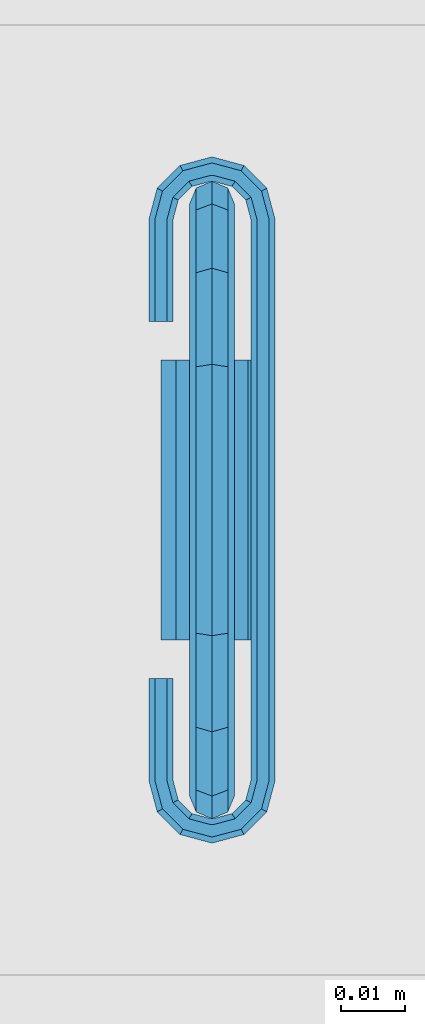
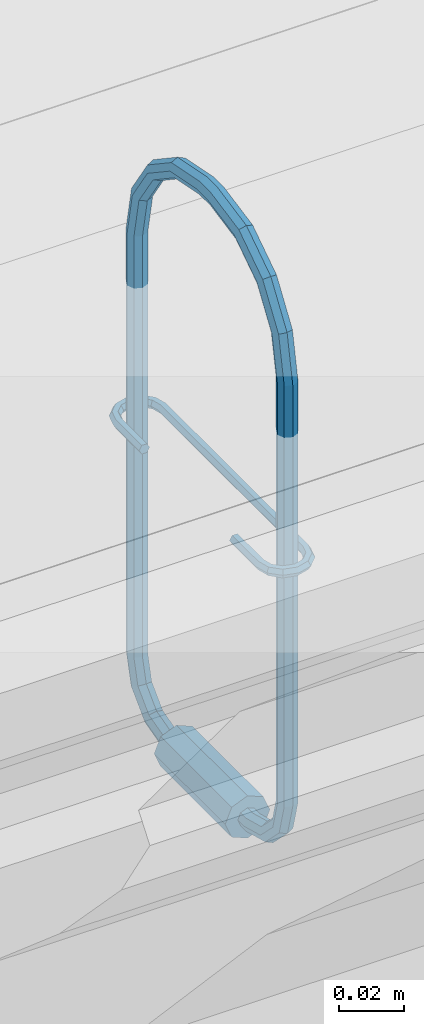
# One storey, part 159 of 230: 1 beam.
"""IFC4X3_ADD2 building model written with IfcOpenShell, lengths in millimetres."""

import ifcopenshell
import ifcopenshell.guid

model = None  # the IFC model being written
_history = None  # IfcOwnerHistory: only IFC2X3 demands one
_inside = {}  # id of a spatial element -> (the spatial element, [elements in it])
_under = {}  # id of a project, library or spatial element -> (it, [spatial elements below it])
_declared = {}  # id of a project -> (the project, [libraries it declares])
_typed = {}  # id of a type object -> (the type object, [elements of that type])
_made_of = {}  # id of a material, layer set ... -> (it, [elements and type objects made of it])


def new_model(schema):
    """Start an empty IFC model of exactly this schema.

    Asked for "IFC4X3", IfcOpenShell would pick the latest addendum, in which some entities
    have other attributes; the version numbers below select the first issue.
    IFC2X3 requires an IfcOwnerHistory on every rooted entity: one is made here for all.
    """
    global model, _history
    if schema == "IFC4X3":
        model = ifcopenshell.file(schema_version=(4, 3, 0, 0))
    else:
        model = ifcopenshell.file(schema=schema)
    _inside.clear()
    _under.clear()
    _declared.clear()
    _typed.clear()
    _made_of.clear()
    _history = None
    if model.schema == "IFC2X3":
        org = make("IfcOrganization", Name="unknown")
        user = make(
            "IfcPersonAndOrganization",
            ThePerson=make("IfcPerson", FamilyName="unknown"),
            TheOrganization=org,
        )
        app = make(
            "IfcApplication",
            ApplicationDeveloper=org,
            Version="unknown",
            ApplicationFullName="unknown",
            ApplicationIdentifier="unknown",
        )
        _history = make(
            "IfcOwnerHistory",
            OwningUser=user,
            OwningApplication=app,
            ChangeAction="ADDED",
            CreationDate=0,
        )
    return model


def make(cls, **values):
    """One entity of the class cls with the attributes given. An attribute that is None is left unset."""
    return model.create_entity(
        cls, **{name: value for name, value in values.items() if value is not None}
    )


def rooted(cls, **values):
    """An entity with a GlobalId (a new one), such as an element, a storey or a relation."""
    return make(cls, GlobalId=ifcopenshell.guid.new(), OwnerHistory=_history, **values)


def si_unit(unit_type, name, prefix=None):
    """IfcSIUnit, for example si_unit("LENGTHUNIT", "METRE", prefix="MILLI")."""
    return make("IfcSIUnit", UnitType=unit_type, Prefix=prefix, Name=name)


def assignment(units):
    """IfcUnitAssignment: the units of a project."""
    return None if units is None else make("IfcUnitAssignment", Units=units)


def point(xyz):
    """IfcCartesianPoint."""
    return None if xyz is None else make("IfcCartesianPoint", Coordinates=xyz)


def direction(xyz):
    """IfcDirection."""
    return None if xyz is None else make("IfcDirection", DirectionRatios=xyz)


def frame(location, z_axis=None, x_axis=None):
    """IfcAxis2Placement3D, a coordinate frame: its origin and axes. An axis left out is left unset."""
    return make(
        "IfcAxis2Placement3D",
        Location=point(location),
        Axis=direction(z_axis),
        RefDirection=direction(x_axis),
    )


def origin_with_axes():
    """The frame at (0, 0, 0) with the z axis (0, 0, 1) and the x axis (1, 0, 0) written out."""
    return frame((0.0, 0.0, 0.0), z_axis=(0.0, 0.0, 1.0), x_axis=(1.0, 0.0, 0.0))


def place(relative_to, where):
    """IfcLocalPlacement: puts the frame where relative to a parent placement (None: the world)."""
    return make(
        "IfcLocalPlacement", PlacementRelTo=relative_to, RelativePlacement=where
    )


def context(
    kind, dimensions, precision=None, world=None, true_north=None, identifier=None
):
    """IfcGeometricRepresentationContext, for example the 3D "Model" context."""
    return make(
        "IfcGeometricRepresentationContext",
        ContextIdentifier=identifier,
        ContextType=kind,
        CoordinateSpaceDimension=dimensions,
        Precision=precision,
        WorldCoordinateSystem=world,
        TrueNorth=true_north,
    )


def subcontext(parent, identifier, kind, view, scale=None):
    """IfcGeometricRepresentationSubContext, for example "Body" below "Model"."""
    return make(
        "IfcGeometricRepresentationSubContext",
        ContextIdentifier=identifier,
        ContextType=kind,
        ParentContext=parent,
        TargetScale=scale,
        TargetView=view,
    )


def project(units=None, contexts=None):
    """IfcProject with its units and contexts."""
    return rooted(
        "IfcProject",
        Name="project",
        RepresentationContexts=contexts,
        UnitsInContext=assignment(units),
    )


def spatial(cls, under=None, at=None, **own):
    """A site, building, storey or space (cls), placed at a placement, below another one or the project."""
    s = rooted(cls, ObjectPlacement=at, **own)
    if under is not None:
        _under.setdefault(under.id(), (under, []))[1].append(s)
    return s


def point_list(points):
    """IfcCartesianPointList2D or 3D."""
    cls = (
        "IfcCartesianPointList2D" if len(points[0]) == 2 else "IfcCartesianPointList3D"
    )
    return make(cls, CoordList=points)


def triangles(points, corners, closed=None, point_numbers=None):
    """IfcTriangulatedFaceSet: each triangle names its three corners, points numbered from 1."""
    return make(
        "IfcTriangulatedFaceSet",
        Coordinates=point_list(points),
        Closed=closed,
        CoordIndex=corners,
        PnIndex=point_numbers,
    )


def shape(context_of_items, identifier, shape_type, items):
    """IfcShapeRepresentation: the items that make up one representation, for example the "Body"."""
    return make(
        "IfcShapeRepresentation",
        ContextOfItems=context_of_items,
        RepresentationIdentifier=identifier,
        RepresentationType=shape_type,
        Items=items,
    )


def made_of(thing, what):
    """Note that an element or type object is made of a material, layer set ...; save() writes the relation."""
    if what is not None:
        _made_of.setdefault(what.id(), (what, []))[1].append(thing)
    return thing


def element(
    cls,
    number,
    at=None,
    inside=None,
    cuts=None,
    type_object=None,
    material=None,
    context=None,
    identifier="Body",
    shape_type=None,
    held_by="IfcProductDefinitionShape",
    body=None,
    shapes=None,
    **own,
):
    """One element of the class cls, such as IfcWall. Its Tag is "e" and its number.

    at: its placement. inside: the storey or other place that contains it. cuts: it is an
    opening in that element (IfcRelVoidsElement). A single representation is given by context,
    identifier, shape_type and body (its items); several are given by shapes. held_by: the class
    of the entity that holds the representations. save() writes the other relations.
    """
    e = rooted(cls, Tag="e%d" % number, ObjectPlacement=at, **own)
    if body is not None:
        shapes = [shape(context, identifier, shape_type, body)]
    if shapes is not None:
        e.Representation = make(held_by, Representations=shapes)
    if inside is not None:
        _inside.setdefault(inside.id(), (inside, []))[1].append(e)
    if cuts is not None:
        rooted(
            "IfcRelVoidsElement", RelatingBuildingElement=cuts, RelatedOpeningElement=e
        )
    if type_object is not None:
        _typed.setdefault(type_object.id(), (type_object, []))[1].append(e)
    return made_of(e, material)


def aggregate(whole, parts):
    """IfcRelAggregates: a whole, such as a stair, and the parts it consists of."""
    return rooted("IfcRelAggregates", RelatingObject=whole, RelatedObjects=parts)


def save(model, path):
    """Write the relations noted so far, then the file.

    IfcRelAggregates (storeys below a building ...), IfcRelContainedInSpatialStructure (elements
    in a storey), IfcRelDefinesByType, IfcRelAssociatesMaterial and IfcRelDeclares: one each for
    every whole, place, type object, material and project.
    """
    for whole, parts in _under.values():
        aggregate(whole, parts)
    for where, things in _inside.values():
        rooted(
            "IfcRelContainedInSpatialStructure",
            RelatedElements=things,
            RelatingStructure=where,
        )
    for kind, things in _typed.values():
        rooted("IfcRelDefinesByType", RelatedObjects=things, RelatingType=kind)
    for what, things in _made_of.values():
        rooted("IfcRelAssociatesMaterial", RelatedObjects=things, RelatingMaterial=what)
    for by, libraries in _declared.values():
        rooted("IfcRelDeclares", RelatingContext=by, RelatedDefinitions=libraries)
    model.write(path)


model = new_model("IFC4X3_ADD2")

# Units and contexts
model_context = context("Model", 3, precision=1e-05, world=origin_with_axes(), true_north=direction((0.0, 1.0)))
body_context = subcontext(model_context, "Body", "Model", "MODEL_VIEW")
ifc_project = project(units=[si_unit("LENGTHUNIT", "METRE", prefix="MILLI"), si_unit("AREAUNIT", "SQUARE_METRE"), si_unit("VOLUMEUNIT", "CUBIC_METRE"), si_unit("PLANEANGLEUNIT", "RADIAN"), si_unit("TIMEUNIT", "SECOND"), si_unit("MASSUNIT", "GRAM")], contexts=[model_context])

# Site, building, storey
site_placement = place(None, origin_with_axes())
site = spatial("IfcSite", under=ifc_project, at=site_placement, Name="Site", CompositionType="ELEMENT")
building_placement = place(site_placement, origin_with_axes())
building = spatial("IfcBuilding", under=site, at=building_placement, Name="IFC Building Story")
storey_placement = place(building_placement, origin_with_axes())
storey = spatial("IfcBuildingStorey", under=building, at=storey_placement, Name="ETAGE 00 (0)", Elevation=0.0)

# Beam
beam_placement = place(storey_placement, origin_with_axes())
element("IfcBeam", 1, at=beam_placement, inside=storey, Name="LU2", ObjectType="D7", context=body_context, shape_type="Tessellation", body=[
    triangles([(40583.66235351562, -12884.49959106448, 4036.025157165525), (40583.66235351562, -12888.00054016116, 4036.025157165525), (40581.1880859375, -12884.49959106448, 4034.999929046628), (40581.1880859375, -12888.00054016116, 4034.999929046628), (40584.69019775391, -12884.49959106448, 4038.500006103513), (40584.69019775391, -12888.00054016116, 4038.500006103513), (40583.66235351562, -12888.00054016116, 4040.974855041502), (40583.66235351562, -12884.49959106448, 4040.974855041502), (40581.1880859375, -12888.00054016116, 4042.000083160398), (40581.1880859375, -12884.49959106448, 4042.000083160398), (40578.71381835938, -12888.00054016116, 4040.974855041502), (40578.71381835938, -12884.49959106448, 4040.974855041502), (40577.690625, -12888.00054016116, 4038.500006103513), (40577.690625, -12884.49959106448, 4038.500006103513), (40578.71381835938, -12884.49959106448, 4036.025157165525), (40578.71381835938, -12888.00054016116, 4036.025157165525), (40581.1880859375, -12872.25033874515, 4038.282286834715), (40578.71381835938, -12872.76309814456, 4039.170023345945), (40581.1880859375, -12863.28228149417, 4047.250053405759), (40578.71381835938, -12864.17059936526, 4047.762522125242), (40583.66235351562, -12864.17059936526, 4047.762522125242), (40583.66235351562, -12872.76309814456, 4039.170023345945), (40584.69019775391, -12866.31349182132, 4048.999946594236), (40584.69019775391, -12874.00023193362, 4041.313497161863), (40583.66235351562, -12875.23736572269, 4043.456680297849), (40583.66235351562, -12868.45638427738, 4050.237371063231), (40581.1880859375, -12875.7501251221, 4044.34441680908), (40581.1880859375, -12869.34470214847, 4050.750130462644), (40578.71381835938, -12868.45638427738, 4050.237371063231), (40578.71381835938, -12875.23736572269, 4043.456680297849), (40577.690625, -12866.31349182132, 4048.999946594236), (40577.690625, -12874.00023193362, 4041.313497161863), (40578.71381835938, -12861.02544250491, 4059.499887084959), (40577.690625, -12863.49971008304, 4059.499887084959), (40581.1880859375, -12859.99992370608, 4059.499887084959), (40583.66235351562, -12861.02544250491, 4059.499887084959), (40584.69019775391, -12863.49971008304, 4059.499887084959), (40583.66235351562, -12865.97514038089, 4059.499887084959), (40581.1880859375, -12866.99949645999, 4059.499887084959), (40578.71381835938, -12865.97514038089, 4059.499887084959), (40578.71381835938, -12865.97514038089, 4218.50006561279), (40577.690625, -12863.49971008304, 4218.50006561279), (40578.71381835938, -12869.05983581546, 4234.008421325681), (40577.690625, -12866.77276611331, 4234.955456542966), (40578.71381835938, -12877.84418334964, 4247.155583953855), (40577.690625, -12876.09429016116, 4248.905477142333), (40578.71381835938, -12874.34439697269, 4250.65566101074), (40578.71381835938, -12864.48685913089, 4235.902491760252), (40581.1880859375, -12873.62002258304, 4251.38032608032), (40581.1880859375, -12863.53924255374, 4236.294909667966), (40583.66235351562, -12874.34439697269, 4250.65566101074), (40583.66235351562, -12864.48685913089, 4235.902491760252), (40584.69019775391, -12876.09429016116, 4248.905477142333), (40584.69019775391, -12866.77276611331, 4234.955456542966), (40583.66235351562, -12869.05983581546, 4234.008421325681), (40583.66235351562, -12877.84418334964, 4247.155583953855), (40581.1880859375, -12870.00628967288, 4233.616003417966), (40581.1880859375, -12878.56972045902, 4246.430628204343), (40581.1880859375, -12891.38405456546, 4254.993186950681), (40578.71381835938, -12890.99221801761, 4255.940222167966), (40577.690625, -12890.04460144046, 4258.226710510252), (40578.71381835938, -12889.09698486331, 4260.513198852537), (40581.1880859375, -12888.70514831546, 4261.460524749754), (40583.66235351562, -12889.09698486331, 4260.513198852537), (40584.69019775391, -12890.04460144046, 4258.226710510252), (40583.66235351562, -12890.99221801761, 4255.940222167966), (40583.66235351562, -12906.49941101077, 4259.025208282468), (40581.1880859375, -12906.49941101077, 4257.999980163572), (40578.71381835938, -12906.49941101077, 4259.025208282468), (40577.690625, -12906.49941101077, 4261.500057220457), (40578.71381835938, -12906.49941101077, 4263.974906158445), (40581.1880859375, -12906.49941101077, 4265.000134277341), (40583.66235351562, -12906.49941101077, 4263.974906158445), (40584.69019775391, -12906.49941101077, 4261.500057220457), (40584.69019775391, -12913.5001464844, 4261.500057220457), (40583.66235351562, -12913.5001464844, 4259.025208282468), (40584.69019775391, -12929.95495605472, 4258.226710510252), (40583.66235351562, -12929.0085021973, 4255.940222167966), (40584.69019775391, -12943.90526733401, 4248.905477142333), (40583.66235351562, -12942.15537414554, 4247.155583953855), (40581.1880859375, -12928.61550292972, 4254.993186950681), (40581.1880859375, -12941.43099975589, 4246.430628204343), (40578.71381835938, -12942.15537414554, 4247.155583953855), (40578.71381835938, -12929.0085021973, 4255.940222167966), (40577.690625, -12943.90526733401, 4248.905477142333), (40577.690625, -12929.95495605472, 4258.226710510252), (40578.71381835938, -12945.65516052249, 4250.65566101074), (40578.71381835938, -12930.90257263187, 4260.513198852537), (40581.1880859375, -12946.38069763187, 4251.38032608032), (40581.1880859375, -12931.29440917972, 4261.460524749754), (40583.66235351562, -12945.65516052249, 4250.65566101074), (40583.66235351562, -12930.90257263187, 4260.513198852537), (40584.69019775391, -12953.22679138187, 4234.955456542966), (40583.66235351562, -12955.51386108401, 4235.902491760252), (40583.66235351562, -12950.94088439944, 4234.008421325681), (40581.1880859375, -12949.9932678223, 4233.616003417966), (40578.71381835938, -12950.94088439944, 4234.008421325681), (40577.690625, -12953.22679138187, 4234.955456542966), (40578.71381835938, -12955.51386108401, 4235.902491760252), (40581.1880859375, -12956.46031494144, 4236.294909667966), (40583.66235351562, -12958.97527770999, 4218.50006561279), (40581.1880859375, -12959.99963378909, 4218.50006561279), (40584.69019775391, -12956.49984741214, 4218.50006561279), (40583.66235351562, -12954.02557983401, 4218.50006561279), (40581.1880859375, -12953.00006103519, 4218.50006561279), (40578.71381835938, -12954.02557983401, 4218.50006561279), (40577.690625, -12956.49984741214, 4218.50006561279), (40578.71381835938, -12958.97527770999, 4218.50006561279), (40581.1880859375, -12959.99963378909, 4059.499887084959), (40578.71381835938, -12958.97527770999, 4059.499887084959), (40581.1880859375, -12956.71727600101, 4047.250053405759), (40578.71381835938, -12955.83012084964, 4047.762522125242), (40581.1880859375, -12947.75038146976, 4038.282286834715), (40578.71381835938, -12947.23762207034, 4039.170023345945), (40583.66235351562, -12947.23762207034, 4039.170023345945), (40583.66235351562, -12955.83012084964, 4047.762522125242), (40584.69019775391, -12946.00048828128, 4041.313497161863), (40584.69019775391, -12953.68606567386, 4048.999946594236), (40583.66235351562, -12951.5431732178, 4050.237371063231), (40583.66235351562, -12944.76219177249, 4043.456680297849), (40581.1880859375, -12950.65485534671, 4050.750130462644), (40581.1880859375, -12944.24943237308, 4044.34441680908), (40578.71381835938, -12944.76219177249, 4043.456680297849), (40578.71381835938, -12951.5431732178, 4050.237371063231), (40577.690625, -12946.00048828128, 4041.313497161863), (40577.690625, -12953.68606567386, 4048.999946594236), (40578.71381835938, -12935.49996643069, 4036.025157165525), (40577.690625, -12935.49996643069, 4038.500006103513), (40581.1880859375, -12935.49996643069, 4034.999929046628), (40583.66235351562, -12935.49996643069, 4036.025157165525), (40584.69019775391, -12935.49996643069, 4038.500006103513), (40583.66235351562, -12935.49996643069, 4040.974855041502), (40581.1880859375, -12935.49996643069, 4042.000083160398), (40578.71381835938, -12935.49996643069, 4040.974855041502), (40578.71381835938, -12932.00018005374, 4040.974855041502), (40577.690625, -12932.00018005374, 4038.500006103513), (40581.1880859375, -12932.00018005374, 4042.000083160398), (40583.66235351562, -12932.00018005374, 4040.974855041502), (40584.69019775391, -12932.00018005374, 4038.500006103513), (40583.66235351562, -12932.00018005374, 4036.025157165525), (40581.1880859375, -12932.00018005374, 4034.999929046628), (40578.71381835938, -12932.00018005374, 4036.025157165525), (40589.18759765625, -12932.00018005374, 4038.500006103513), (40581.1880859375, -12932.00018005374, 4046.500099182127), (40575.5326171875, -12932.00018005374, 4044.156928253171), (40573.18857421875, -12932.00018005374, 4038.500006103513), (40586.8435546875, -12932.00018005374, 4044.156928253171), (40575.5326171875, -12932.00018005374, 4032.843083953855), (40581.1880859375, -12932.00018005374, 4030.4999130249), (40586.8435546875, -12932.00018005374, 4032.843083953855), (40586.8435546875, -12888.00054016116, 4032.843083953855), (40581.1880859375, -12888.00054016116, 4030.4999130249), (40589.18759765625, -12888.00054016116, 4038.500006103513), (40586.8435546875, -12888.00054016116, 4044.156928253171), (40581.1880859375, -12888.00054016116, 4046.500099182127), (40575.5326171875, -12888.00054016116, 4044.156928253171), (40573.18857421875, -12888.00054016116, 4038.500006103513), (40575.5326171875, -12888.00054016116, 4032.843083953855), (40577.690625, -12956.49984741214, 4059.499887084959), (40578.71381835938, -12954.02557983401, 4059.499887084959), (40581.1880859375, -12953.00006103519, 4059.499887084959), (40583.66235351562, -12954.02557983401, 4059.499887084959), (40584.69019775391, -12956.49984741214, 4059.499887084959), (40583.66235351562, -12958.97527770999, 4059.499887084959), (40583.66235351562, -12913.5001464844, 4263.974906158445), (40581.1880859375, -12913.5001464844, 4265.000134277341), (40578.71381835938, -12913.5001464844, 4263.974906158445), (40577.690625, -12913.5001464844, 4261.500057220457), (40578.71381835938, -12913.5001464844, 4259.025208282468), (40581.1880859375, -12913.5001464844, 4257.999980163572), (40581.1880859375, -12866.99949645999, 4218.50006561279), (40583.66235351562, -12865.97514038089, 4218.50006561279), (40584.69019775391, -12863.49971008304, 4218.50006561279), (40583.66235351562, -12861.02544250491, 4218.50006561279), (40581.1880859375, -12859.99992370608, 4218.50006561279), (40578.71381835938, -12861.02544250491, 4218.50006561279), (40575.0907836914, -12865.94025878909, 4149.999886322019), (40575.0907836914, -12881.99974365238, 4149.999886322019), (40574.13735351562, -12865.94025878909, 4148.354637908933), (40574.13735351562, -12881.99974365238, 4148.354637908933), (40575.88608398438, -12862.96950988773, 4149.999886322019), (40575.06287841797, -12862.49512023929, 4148.354637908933), (40577.58365478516, -12859.97318115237, 4148.354637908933), (40578.05804443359, -12860.79522399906, 4149.999886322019), (40577.58365478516, -12859.97318115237, 4151.645425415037), (40575.06287841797, -12862.49512023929, 4151.645425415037), (40581.02995605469, -12859.04998168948, 4151.645425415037), (40581.02995605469, -12857.15009765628, 4151.645425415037), (40576.63487548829, -12858.32793273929, 4151.645425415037), (40572.23979492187, -12954.06046142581, 4151.645425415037), (40575.06287841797, -12957.50443725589, 4151.645425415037), (40574.13735351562, -12954.06046142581, 4151.645425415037), (40572.23979492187, -12937.9998138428, 4151.645425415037), (40573.41646728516, -12958.45554199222, 4151.645425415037), (40574.13735351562, -12937.9998138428, 4151.645425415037), (40576.63487548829, -12961.67278747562, 4151.645425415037), (40581.02995605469, -12960.94957580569, 4151.645425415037), (40577.58365478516, -12960.0263763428, 4151.645425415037), (40581.02995605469, -12962.8494598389, 4151.645425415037), (40572.23979492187, -12865.94025878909, 4151.645425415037), (40573.41646728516, -12861.54517822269, 4151.645425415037), (40572.23979492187, -12881.99974365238, 4151.645425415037), (40574.13735351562, -12865.94025878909, 4151.645425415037), (40574.13735351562, -12881.99974365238, 4151.645425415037), (40584.79251708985, -12960.0263763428, 4151.645425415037), (40585.74594726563, -12961.67278747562, 4151.645425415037), (40588.95970458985, -12958.45554199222, 4151.645425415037), (40581.35086669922, -12962.8494598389, 4151.645425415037), (40581.35086669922, -12960.94957580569, 4151.645425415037), (40587.31794433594, -12957.50443725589, 4151.645425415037), (40590.14102783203, -12954.06046142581, 4151.645425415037), (40588.23881835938, -12954.06046142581, 4151.645425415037), (40588.23881835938, -12865.94025878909, 4151.645425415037), (40585.74594726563, -12858.32793273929, 4151.645425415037), (40584.79251708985, -12859.97318115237, 4151.645425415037), (40588.95970458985, -12861.54517822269, 4151.645425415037), (40581.35086669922, -12857.15009765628, 4151.645425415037), (40581.35086669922, -12859.04998168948, 4151.645425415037), (40590.14102783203, -12865.94025878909, 4151.645425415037), (40587.31794433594, -12862.49512023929, 4151.645425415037), (40572.23979492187, -12937.9998138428, 4148.354637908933), (40574.13735351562, -12937.9998138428, 4148.354637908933), (40575.0907836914, -12937.9998138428, 4149.999886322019), (40571.291015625, -12937.9998138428, 4149.999886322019), (40575.0907836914, -12954.06046142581, 4149.999886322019), (40574.13735351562, -12954.06046142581, 4148.354637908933), (40576.63487548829, -12961.67278747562, 4148.354637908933), (40581.02995605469, -12960.94957580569, 4148.354637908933), (40581.02995605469, -12962.8494598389, 4148.354637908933), (40572.23979492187, -12865.94025878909, 4148.354637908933), (40572.23979492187, -12881.99974365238, 4148.354637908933), (40573.41646728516, -12861.54517822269, 4148.354637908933), (40576.63487548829, -12858.32793273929, 4148.354637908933), (40581.02995605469, -12859.04998168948, 4148.354637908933), (40581.02995605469, -12857.15009765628, 4148.354637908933), (40572.23979492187, -12954.06046142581, 4148.354637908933), (40575.06287841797, -12957.50443725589, 4148.354637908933), (40573.41646728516, -12958.45554199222, 4148.354637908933), (40577.58365478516, -12960.0263763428, 4148.354637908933), (40584.79251708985, -12859.97318115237, 4148.354637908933), (40585.74594726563, -12858.32793273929, 4148.354637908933), (40588.95970458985, -12861.54517822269, 4148.354637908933), (40581.35086669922, -12857.15009765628, 4148.354637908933), (40581.35086669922, -12859.04998168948, 4148.354637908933), (40587.31794433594, -12862.49512023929, 4148.354637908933), (40590.14102783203, -12865.94025878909, 4148.354637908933), (40588.23881835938, -12865.94025878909, 4148.354637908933), (40588.23881835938, -12954.06046142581, 4148.354637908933), (40585.74594726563, -12961.67278747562, 4148.354637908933), (40584.79251708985, -12960.0263763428, 4148.354637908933), (40588.95970458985, -12958.45554199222, 4148.354637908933), (40581.35086669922, -12962.8494598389, 4148.354637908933), (40581.35086669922, -12960.94957580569, 4148.354637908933), (40590.14102783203, -12954.06046142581, 4148.354637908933), (40587.31794433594, -12957.50443725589, 4148.354637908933), (40571.291015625, -12954.06046142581, 4149.999886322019), (40572.59326171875, -12958.92993164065, 4149.999886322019), (40576.16048583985, -12962.4948303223, 4149.999886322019), (40581.02995605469, -12963.7994018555, 4149.999886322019), (40581.35086669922, -12963.7994018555, 4149.999886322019), (40586.22033691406, -12962.4948303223, 4149.999886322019), (40589.78291015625, -12958.92993164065, 4149.999886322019), (40591.08980712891, -12954.06046142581, 4149.999886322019), (40591.08980712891, -12865.94025878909, 4149.999886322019), (40589.78291015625, -12861.06962585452, 4149.999886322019), (40586.22033691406, -12857.50472717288, 4149.999886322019), (40581.35086669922, -12856.20015563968, 4149.999886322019), (40581.02995605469, -12856.20015563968, 4149.999886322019), (40576.16048583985, -12857.50472717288, 4149.999886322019), (40572.59326171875, -12861.06962585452, 4149.999886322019), (40571.291015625, -12865.94025878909, 4149.999886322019), (40571.291015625, -12881.99974365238, 4149.999886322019), (40581.02995605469, -12859.99992370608, 4149.999886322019), (40581.35086669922, -12859.99992370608, 4149.999886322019), (40584.31812744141, -12860.79522399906, 4149.999886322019), (40586.49473876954, -12862.96950988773, 4149.999886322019), (40587.2900390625, -12865.94025878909, 4149.999886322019), (40587.2900390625, -12954.06046142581, 4149.999886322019), (40586.49473876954, -12957.03004760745, 4149.999886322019), (40584.31812744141, -12959.20433349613, 4149.999886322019), (40581.35086669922, -12959.99963378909, 4149.999886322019), (40581.02995605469, -12959.99963378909, 4149.999886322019), (40578.05804443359, -12959.20433349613, 4149.999886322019), (40575.88608398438, -12957.03004760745, 4149.999886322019)], [[1, 2, 3], [4, 3, 2], [5, 6, 1], [2, 1, 6], [6, 5, 7], [8, 7, 5], [7, 8, 9], [10, 9, 8], [9, 10, 11], [12, 11, 10], [11, 12, 13], [14, 13, 12], [15, 16, 14], [13, 14, 16], [3, 4, 15], [16, 15, 4], [17, 3, 18], [15, 18, 3], [19, 17, 20], [18, 20, 17], [21, 22, 17], [17, 19, 21], [23, 24, 22], [22, 21, 23], [24, 23, 25], [26, 25, 23], [25, 26, 27], [28, 27, 26], [27, 28, 29], [29, 30, 27], [30, 29, 31], [31, 32, 30], [20, 18, 31], [32, 31, 18], [33, 20, 34], [31, 34, 20], [35, 19, 33], [20, 33, 19], [36, 21, 19], [19, 35, 36], [37, 23, 21], [21, 36, 37], [23, 37, 26], [38, 26, 37], [26, 38, 28], [39, 28, 38], [28, 39, 40], [40, 29, 28], [29, 40, 34], [34, 31, 29], [40, 41, 42], [42, 34, 40], [41, 43, 44], [44, 42, 41], [43, 45, 46], [46, 44, 43], [47, 48, 46], [44, 46, 48], [49, 50, 47], [48, 47, 50], [51, 52, 50], [50, 49, 51], [53, 54, 52], [52, 51, 53], [54, 53, 55], [56, 55, 53], [55, 56, 57], [58, 57, 56], [57, 58, 45], [45, 43, 57], [58, 59, 60], [60, 45, 58], [45, 60, 61], [61, 46, 45], [62, 47, 61], [46, 61, 47], [63, 49, 62], [47, 62, 49], [64, 51, 49], [49, 63, 64], [65, 53, 51], [51, 64, 65], [53, 65, 56], [66, 56, 65], [56, 66, 58], [59, 58, 66], [66, 67, 59], [68, 59, 67], [59, 68, 69], [69, 60, 59], [60, 69, 70], [70, 61, 60], [71, 62, 70], [61, 70, 62], [72, 63, 71], [62, 71, 63], [73, 64, 63], [63, 72, 73], [74, 65, 64], [64, 73, 74], [65, 74, 66], [67, 66, 74], [74, 75, 67], [76, 67, 75], [75, 77, 76], [78, 76, 77], [77, 79, 78], [80, 78, 79], [78, 80, 81], [82, 81, 80], [81, 82, 83], [83, 84, 81], [84, 83, 85], [85, 86, 84], [87, 88, 85], [86, 85, 88], [89, 90, 87], [88, 87, 90], [91, 92, 90], [90, 89, 91], [79, 77, 92], [92, 91, 79], [93, 79, 91], [91, 94, 93], [79, 93, 80], [95, 80, 93], [80, 95, 82], [96, 82, 95], [82, 96, 97], [97, 83, 82], [83, 97, 98], [98, 85, 83], [99, 87, 98], [85, 98, 87], [100, 89, 99], [87, 99, 89], [94, 91, 89], [89, 100, 94], [101, 94, 100], [100, 102, 101], [103, 93, 94], [94, 101, 103], [93, 103, 95], [104, 95, 103], [95, 104, 96], [105, 96, 104], [96, 105, 106], [106, 97, 96], [97, 106, 107], [107, 98, 97], [108, 99, 107], [98, 107, 99], [102, 100, 108], [99, 108, 100], [109, 102, 110], [108, 110, 102], [111, 109, 112], [110, 112, 109], [113, 111, 114], [112, 114, 111], [115, 116, 111], [111, 113, 115], [117, 118, 116], [116, 115, 117], [118, 117, 119], [120, 119, 117], [119, 120, 121], [122, 121, 120], [121, 122, 123], [123, 124, 121], [124, 123, 125], [125, 126, 124], [114, 112, 125], [126, 125, 112], [127, 114, 128], [125, 128, 114], [129, 113, 127], [114, 127, 113], [130, 115, 113], [113, 129, 130], [131, 117, 115], [115, 130, 131], [117, 131, 120], [132, 120, 131], [120, 132, 122], [133, 122, 132], [122, 133, 134], [134, 123, 122], [123, 134, 128], [128, 125, 123], [134, 135, 136], [136, 128, 134], [133, 137, 134], [135, 134, 137], [132, 138, 137], [137, 133, 132], [131, 139, 132], [138, 132, 139], [139, 131, 130], [130, 140, 139], [140, 130, 141], [129, 141, 130], [141, 129, 127], [127, 142, 141], [142, 127, 136], [128, 136, 127], [138, 139, 143], [135, 137, 144], [144, 145, 135], [146, 136, 135], [146, 135, 145], [147, 137, 138], [137, 147, 144], [138, 143, 147], [148, 136, 146], [142, 149, 141], [142, 136, 148], [148, 149, 142], [150, 143, 139], [139, 140, 150], [141, 150, 140], [150, 141, 149], [151, 150, 152], [149, 152, 150], [153, 143, 151], [150, 151, 143], [143, 153, 147], [154, 147, 153], [147, 154, 144], [155, 144, 154], [144, 155, 145], [156, 145, 155], [145, 156, 146], [157, 146, 156], [158, 148, 157], [146, 157, 148], [152, 149, 158], [148, 158, 149], [11, 13, 157], [7, 9, 155], [155, 154, 7], [153, 6, 7], [153, 7, 154], [156, 9, 11], [9, 156, 155], [11, 157, 156], [151, 6, 153], [2, 152, 4], [2, 6, 151], [151, 152, 2], [158, 157, 13], [13, 16, 158], [4, 158, 16], [158, 4, 152], [112, 110, 126], [159, 126, 110], [160, 124, 126], [126, 159, 160], [161, 121, 124], [124, 160, 161], [162, 119, 161], [121, 161, 119], [163, 118, 162], [119, 162, 118], [118, 163, 164], [164, 116, 118], [116, 164, 109], [109, 111, 116], [164, 101, 102], [102, 109, 164], [163, 103, 164], [101, 164, 103], [103, 163, 104], [162, 104, 163], [104, 162, 105], [161, 105, 162], [105, 161, 160], [160, 106, 105], [106, 160, 159], [159, 107, 106], [110, 108, 107], [107, 159, 110], [77, 75, 165], [165, 92, 77], [92, 165, 166], [166, 90, 92], [90, 166, 88], [167, 88, 166], [88, 167, 86], [168, 86, 167], [169, 84, 86], [86, 168, 169], [170, 81, 84], [84, 169, 170], [76, 78, 170], [81, 170, 78], [67, 76, 68], [170, 68, 76], [68, 170, 169], [169, 69, 68], [69, 169, 168], [168, 70, 69], [167, 71, 70], [70, 168, 167], [166, 72, 71], [71, 167, 166], [165, 73, 166], [72, 166, 73], [75, 74, 165], [73, 165, 74], [171, 57, 43], [43, 41, 171], [172, 55, 171], [57, 171, 55], [173, 54, 172], [55, 172, 54], [54, 173, 174], [174, 52, 54], [52, 174, 175], [175, 50, 52], [50, 175, 48], [176, 48, 175], [48, 176, 44], [42, 44, 176], [176, 33, 34], [34, 42, 176], [175, 35, 176], [33, 176, 35], [174, 36, 35], [35, 175, 174], [173, 37, 174], [36, 174, 37], [37, 173, 38], [172, 38, 173], [38, 172, 39], [171, 39, 172], [39, 171, 41], [41, 40, 39], [18, 15, 32], [14, 32, 15], [12, 30, 32], [32, 14, 12], [10, 27, 30], [30, 12, 10], [8, 25, 10], [27, 10, 25], [5, 24, 8], [25, 8, 24], [24, 5, 1], [1, 22, 24], [22, 1, 3], [3, 17, 22], [177, 178, 179], [180, 179, 178], [181, 177, 179], [179, 182, 181], [183, 184, 181], [181, 182, 183], [184, 185, 181], [186, 181, 185], [187, 188, 189], [190, 191, 192], [190, 192, 193], [190, 194, 191], [195, 193, 192], [196, 197, 198], [198, 191, 194], [199, 197, 196], [196, 198, 194], [200, 186, 201], [202, 203, 200], [204, 203, 202], [200, 203, 186], [185, 189, 201], [201, 186, 185], [189, 185, 187], [205, 206, 207], [197, 199, 208], [208, 209, 197], [209, 206, 205], [206, 209, 208], [210, 207, 211], [207, 210, 205], [212, 211, 213], [211, 212, 210], [214, 215, 216], [217, 188, 187], [187, 218, 217], [218, 215, 214], [214, 217, 218], [213, 219, 220], [219, 213, 211], [220, 216, 215], [216, 220, 219], [195, 221, 193], [222, 195, 223], [193, 221, 224], [195, 222, 221], [223, 225, 226], [226, 222, 223], [227, 228, 229], [230, 182, 179], [230, 179, 231], [230, 232, 182], [180, 231, 179], [233, 234, 183], [183, 182, 232], [235, 234, 233], [233, 183, 232], [236, 237, 238], [221, 226, 236], [222, 226, 221], [236, 226, 237], [239, 227, 238], [238, 237, 239], [227, 239, 228], [240, 241, 242], [243, 234, 235], [243, 244, 234], [244, 243, 241], [240, 244, 241], [245, 242, 246], [242, 245, 240], [247, 246, 248], [246, 247, 245], [249, 250, 251], [252, 229, 228], [228, 253, 252], [253, 250, 249], [249, 252, 253], [248, 254, 255], [254, 248, 246], [255, 251, 250], [251, 255, 254], [221, 236, 256], [256, 224, 221], [190, 193, 256], [224, 256, 193], [257, 194, 256], [190, 256, 194], [238, 257, 256], [256, 236, 238], [227, 258, 238], [257, 238, 258], [258, 196, 194], [194, 257, 258], [259, 199, 196], [196, 258, 259], [260, 208, 259], [199, 259, 208], [261, 206, 260], [208, 260, 206], [249, 261, 260], [260, 252, 249], [252, 260, 259], [259, 229, 252], [229, 259, 227], [258, 227, 259], [251, 262, 261], [261, 249, 251], [262, 207, 261], [206, 261, 207], [263, 211, 207], [207, 262, 263], [263, 264, 211], [219, 211, 264], [219, 264, 216], [265, 216, 264], [264, 246, 242], [242, 265, 264], [264, 263, 254], [254, 246, 264], [254, 263, 251], [262, 251, 263], [265, 242, 266], [241, 266, 242], [216, 265, 266], [266, 214, 216], [214, 266, 267], [267, 217, 214], [217, 267, 268], [268, 188, 217], [188, 268, 189], [269, 189, 268], [268, 235, 233], [233, 269, 268], [267, 243, 268], [235, 268, 243], [266, 241, 267], [243, 267, 241], [269, 233, 232], [232, 270, 269], [189, 269, 201], [270, 201, 269], [201, 270, 271], [271, 200, 201], [202, 200, 272], [271, 272, 200], [202, 180, 204], [231, 202, 272], [204, 180, 178], [202, 231, 180], [230, 231, 271], [272, 271, 231], [270, 232, 271], [230, 271, 232], [178, 177, 203], [203, 204, 178], [177, 181, 203], [186, 203, 181], [234, 273, 184], [184, 183, 234], [273, 187, 184], [185, 184, 187], [274, 218, 273], [187, 273, 218], [275, 215, 218], [218, 274, 275], [276, 220, 215], [215, 275, 276], [213, 220, 276], [276, 277, 213], [212, 213, 277], [277, 278, 212], [210, 212, 279], [278, 279, 212], [210, 279, 205], [280, 205, 279], [205, 280, 209], [281, 209, 280], [209, 281, 197], [282, 197, 281], [197, 282, 283], [283, 198, 197], [198, 283, 284], [284, 191, 198], [284, 225, 192], [192, 191, 284], [225, 223, 192], [195, 192, 223], [225, 284, 226], [237, 226, 284], [283, 239, 284], [237, 284, 239], [282, 228, 283], [239, 283, 228], [281, 253, 228], [228, 282, 281], [280, 250, 253], [253, 281, 280], [279, 255, 250], [250, 280, 279], [248, 255, 279], [279, 278, 248], [247, 248, 277], [278, 277, 248], [245, 247, 276], [277, 276, 247], [245, 276, 240], [275, 240, 276], [240, 275, 244], [274, 244, 275], [244, 274, 273], [273, 234, 244]]),
])

save(model, "model.ifc")
